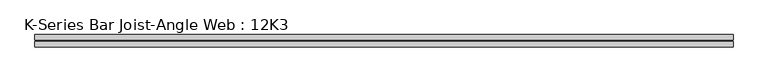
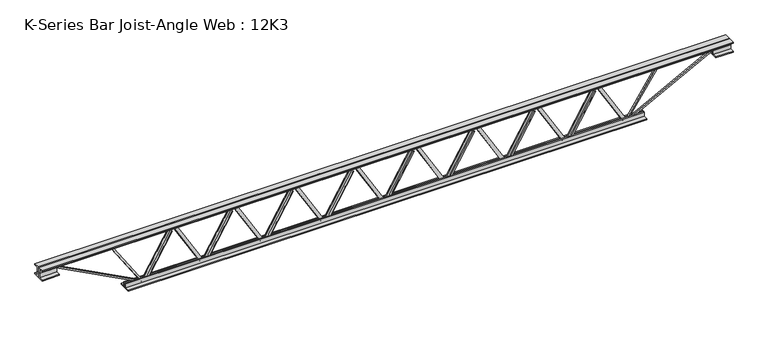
"""IFC4 building model written with IfcOpenShell, lengths in millimetres: beam geometry, K-Series Bar Joist-Angle Web : 12K3."""

from ifc_helpers import new_model, si_unit, frame, origin, place, context, project, spatial, polyline, outline, extrude, faceted_brep, source, transform, mapped, element, save


def k_series_bar_joist_angle_web_12k3_1ccca6b7(model_context):
    return source(origin(), model_context, "Body", "SolidModel", [
        extrude(outline(polyline([(-4.7625, 4.7625), (-4.7625, 0.0), (-17.4625, 0.0), (-17.4625, 4.7625), (-4.7625, 4.7625)])), frame((1034.3772472, 0.0, -114.3), z_axis=(-0.5087293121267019, 0.0, 0.8609265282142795), x_axis=(0.0, -1.0, 0.0)), (0.0, 0.0, 1.0), 265.5278848),
        extrude(outline(polyline([(-149.225, 1066.8), (-130.175, 1066.8), (-130.175, 1065.8852528), (149.225, 900.7852528), (149.225, 882.65), (130.175, 882.65), (130.175, 889.9147472), (-149.225, 1055.0147472), (-149.225, 1066.8)])), frame((0.0, 0.0, 0.0), z_axis=(0.0, 1.0, 0.0), x_axis=(0.0, 0.0, 1.0)), (0.0, 0.0, 1.0), 4.7625),
        faceted_brep([(711.2, 0.0, -130.175), (711.2, 0.0, -149.225), (711.2, -4.7625, -149.225), (711.2, -4.7625, -130.175), (712.1147472, 0.0, -130.175), (877.2147472, 0.0, 149.225), (895.35, 0.0, 149.225), (895.35, 0.0, 130.175), (888.0852528, 0.0, 130.175), (722.9852528, 0.0, -149.225), (722.9852528, -4.7625, -149.225), (743.6227528, -4.7625, -114.3), (739.5225902, -4.7625, -111.8771767), (874.6044084, -4.7625, 116.7228233), (878.704571, -4.7625, 114.3), (888.0852528, -4.7625, 130.175), (895.35, -4.7625, 130.175), (895.35, -4.7625, 149.225), (877.2147472, -4.7625, 149.225), (712.1147472, -4.7625, -130.175), (878.704571, -17.4625, 114.3), (743.6227528, -17.4625, -114.3), (739.5225902, -17.4625, -111.8771767), (874.6044084, -17.4625, 116.7228233)], [[[0, 1, 2, 3]], [[1, 0, 4, 5, 6, 7, 8, 9]], [[2, 1, 9, 10]], [[3, 2, 10, 11, 12, 13, 14, 15, 16, 17, 18, 19]], [[0, 3, 19, 4]], [[9, 8, 15, 14, 20, 21, 11, 10]], [[5, 4, 19, 18]], [[7, 6, 17, 16]], [[8, 7, 16, 15]], [[6, 5, 18, 17]], [[21, 22, 12, 11]], [[20, 14, 13, 23]], [[22, 21, 20, 23]], [[12, 22, 23, 13]]]),
        extrude(outline(polyline([(-4.7625, 4.7625), (-4.7625, 0.0), (-17.4625, 0.0), (-17.4625, 4.7625), (-4.7625, 4.7625)])), frame((678.7772472, 0.0, -114.3), z_axis=(-0.5087293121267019, 0.0, 0.8609265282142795), x_axis=(0.0, -1.0, 0.0)), (0.0, 0.0, 1.0), 265.5278848),
        extrude(outline(polyline([(-149.225, 711.2), (-130.175, 711.2), (-130.175, 710.2852528), (149.225, 545.1852528), (149.225, 527.05), (130.175, 527.05), (130.175, 534.3147472), (-149.225, 699.4147472), (-149.225, 711.2)])), frame((0.0, 0.0, 0.0), z_axis=(0.0, 1.0, 0.0), x_axis=(0.0, 0.0, 1.0)), (0.0, 0.0, 1.0), 4.7625),
        faceted_brep([(355.6, 0.0, -130.175), (355.6, 0.0, -149.225), (355.6, -4.7625, -149.225), (355.6, -4.7625, -130.175), (356.5147472, 0.0, -130.175), (521.6147472, 0.0, 149.225), (539.75, 0.0, 149.225), (539.75, 0.0, 130.175), (532.4852528, 0.0, 130.175), (367.3852528, 0.0, -149.225), (367.3852528, -4.7625, -149.225), (388.0227528, -4.7625, -114.3), (383.9225902, -4.7625, -111.8771767), (519.0044084, -4.7625, 116.7228233), (523.104571, -4.7625, 114.3), (532.4852528, -4.7625, 130.175), (539.75, -4.7625, 130.175), (539.75, -4.7625, 149.225), (521.6147472, -4.7625, 149.225), (356.5147472, -4.7625, -130.175), (523.104571, -17.4625, 114.3), (388.0227528, -17.4625, -114.3), (383.9225902, -17.4625, -111.8771767), (519.0044084, -17.4625, 116.7228233)], [[[0, 1, 2, 3]], [[1, 0, 4, 5, 6, 7, 8, 9]], [[2, 1, 9, 10]], [[3, 2, 10, 11, 12, 13, 14, 15, 16, 17, 18, 19]], [[0, 3, 19, 4]], [[9, 8, 15, 14, 20, 21, 11, 10]], [[5, 4, 19, 18]], [[7, 6, 17, 16]], [[8, 7, 16, 15]], [[6, 5, 18, 17]], [[21, 22, 12, 11]], [[20, 14, 13, 23]], [[22, 21, 20, 23]], [[12, 22, 23, 13]]]),
        extrude(outline(polyline([(-4.7625, 4.7625), (-4.7625, 0.0), (-17.4625, 0.0), (-17.4625, 4.7625), (-4.7625, 4.7625)])), frame((323.1772472, 0.0, -114.3), z_axis=(-0.5087293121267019, 0.0, 0.8609265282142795), x_axis=(0.0, -1.0, 0.0)), (0.0, 0.0, 1.0), 265.5278848),
        extrude(outline(polyline([(-149.225, 355.6), (-130.175, 355.6), (-130.175, 354.6852528), (149.225, 189.5852528), (149.225, 171.45), (130.175, 171.45), (130.175, 178.7147472), (-149.225, 343.8147472), (-149.225, 355.6)])), frame((0.0, 0.0, 0.0), z_axis=(0.0, 1.0, 0.0), x_axis=(0.0, 0.0, 1.0)), (0.0, 0.0, 1.0), 4.7625),
        faceted_brep([(0.0, 0.0, -130.175), (0.0, 0.0, -149.225), (0.0, -4.7625, -149.225), (0.0, -4.7625, -130.175), (0.9147472, 0.0, -130.175), (166.0147472, 0.0, 149.225), (184.15, 0.0, 149.225), (184.15, 0.0, 130.175), (176.8852528, 0.0, 130.175), (11.7852528, 0.0, -149.225), (11.7852528, -4.7625, -149.225), (32.4227528, -4.7625, -114.3), (28.3225902, -4.7625, -111.8771767), (163.4044084, -4.7625, 116.7228233), (167.504571, -4.7625, 114.3), (176.8852528, -4.7625, 130.175), (184.15, -4.7625, 130.175), (184.15, -4.7625, 149.225), (166.0147472, -4.7625, 149.225), (0.9147472, -4.7625, -130.175), (167.504571, -17.4625, 114.3), (32.4227528, -17.4625, -114.3), (28.3225902, -17.4625, -111.8771767), (163.4044084, -17.4625, 116.7228233)], [[[0, 1, 2, 3]], [[1, 0, 4, 5, 6, 7, 8, 9]], [[2, 1, 9, 10]], [[3, 2, 10, 11, 12, 13, 14, 15, 16, 17, 18, 19]], [[0, 3, 19, 4]], [[9, 8, 15, 14, 20, 21, 11, 10]], [[5, 4, 19, 18]], [[7, 6, 17, 16]], [[8, 7, 16, 15]], [[6, 5, 18, 17]], [[21, 22, 12, 11]], [[20, 14, 13, 23]], [[22, 21, 20, 23]], [[12, 22, 23, 13]]]),
        extrude(outline(polyline([(-4.7625, 4.7625), (-4.7625, 0.0), (-17.4625, 0.0), (-17.4625, 4.7625), (-4.7625, 4.7625)])), frame((-32.4227528, 0.0, -114.3), z_axis=(-0.5087293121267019, 0.0, 0.8609265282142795), x_axis=(0.0, -1.0, 0.0)), (0.0, 0.0, 1.0), 265.5278848),
        extrude(outline(polyline([(-149.225, 0.0), (-130.175, 0.0), (-130.175, -0.9147472), (149.225, -166.0147472), (149.225, -184.15), (130.175, -184.15), (130.175, -176.8852528), (-149.225, -11.7852528), (-149.225, 0.0)])), frame((0.0, 0.0, 0.0), z_axis=(0.0, 1.0, 0.0), x_axis=(0.0, 0.0, 1.0)), (0.0, 0.0, 1.0), 4.7625),
        faceted_brep([(-355.6, 0.0, -130.175), (-355.6, 0.0, -149.225), (-355.6, -4.7625, -149.225), (-355.6, -4.7625, -130.175), (-354.6852528, 0.0, -130.175), (-189.5852528, 0.0, 149.225), (-171.45, 0.0, 149.225), (-171.45, 0.0, 130.175), (-178.7147472, 0.0, 130.175), (-343.8147472, 0.0, -149.225), (-343.8147472, -4.7625, -149.225), (-323.1772472, -4.7625, -114.3), (-327.2774098, -4.7625, -111.8771767), (-192.1955916, -4.7625, 116.7228233), (-188.095429, -4.7625, 114.3), (-178.7147472, -4.7625, 130.175), (-171.45, -4.7625, 130.175), (-171.45, -4.7625, 149.225), (-189.5852528, -4.7625, 149.225), (-354.6852528, -4.7625, -130.175), (-188.095429, -17.4625, 114.3), (-323.1772472, -17.4625, -114.3), (-327.2774098, -17.4625, -111.8771767), (-192.1955916, -17.4625, 116.7228233)], [[[0, 1, 2, 3]], [[1, 0, 4, 5, 6, 7, 8, 9]], [[2, 1, 9, 10]], [[3, 2, 10, 11, 12, 13, 14, 15, 16, 17, 18, 19]], [[0, 3, 19, 4]], [[9, 8, 15, 14, 20, 21, 11, 10]], [[5, 4, 19, 18]], [[7, 6, 17, 16]], [[8, 7, 16, 15]], [[6, 5, 18, 17]], [[21, 22, 12, 11]], [[20, 14, 13, 23]], [[22, 21, 20, 23]], [[12, 22, 23, 13]]]),
        extrude(outline(polyline([(-4.7625, 4.7625), (-4.7625, 0.0), (-17.4625, 0.0), (-17.4625, 4.7625), (-4.7625, 4.7625)])), frame((-388.0227528, 0.0, -114.3), z_axis=(-0.5087293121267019, 0.0, 0.8609265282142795), x_axis=(0.0, -1.0, 0.0)), (0.0, 0.0, 1.0), 265.5278848),
        extrude(outline(polyline([(-149.225, -355.6), (-130.175, -355.6), (-130.175, -356.5147472), (149.225, -521.6147472), (149.225, -539.75), (130.175, -539.75), (130.175, -532.4852528), (-149.225, -367.3852528), (-149.225, -355.6)])), frame((0.0, 0.0, 0.0), z_axis=(0.0, 1.0, 0.0), x_axis=(0.0, 0.0, 1.0)), (0.0, 0.0, 1.0), 4.7625),
        faceted_brep([(-711.2, 0.0, -130.175), (-711.2, 0.0, -149.225), (-711.2, -4.7625, -149.225), (-711.2, -4.7625, -130.175), (-710.2852528, 0.0, -130.175), (-545.1852528, 0.0, 149.225), (-527.05, 0.0, 149.225), (-527.05, 0.0, 130.175), (-534.3147472, 0.0, 130.175), (-699.4147472, 0.0, -149.225), (-699.4147472, -4.7625, -149.225), (-678.7772472, -4.7625, -114.3), (-682.8774098, -4.7625, -111.8771767), (-547.7955916, -4.7625, 116.7228233), (-543.695429, -4.7625, 114.3), (-534.3147472, -4.7625, 130.175), (-527.05, -4.7625, 130.175), (-527.05, -4.7625, 149.225), (-545.1852528, -4.7625, 149.225), (-710.2852528, -4.7625, -130.175), (-543.695429, -17.4625, 114.3), (-678.7772472, -17.4625, -114.3), (-682.8774098, -17.4625, -111.8771767), (-547.7955916, -17.4625, 116.7228233)], [[[0, 1, 2, 3]], [[1, 0, 4, 5, 6, 7, 8, 9]], [[2, 1, 9, 10]], [[3, 2, 10, 11, 12, 13, 14, 15, 16, 17, 18, 19]], [[0, 3, 19, 4]], [[9, 8, 15, 14, 20, 21, 11, 10]], [[5, 4, 19, 18]], [[7, 6, 17, 16]], [[8, 7, 16, 15]], [[6, 5, 18, 17]], [[21, 22, 12, 11]], [[20, 14, 13, 23]], [[22, 21, 20, 23]], [[12, 22, 23, 13]]]),
        extrude(outline(polyline([(-4.7625, 4.7625), (-4.7625, 0.0), (-17.4625, 0.0), (-17.4625, 4.7625), (-4.7625, 4.7625)])), frame((-743.6227528, 0.0, -114.3), z_axis=(-0.5087293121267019, 0.0, 0.8609265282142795), x_axis=(0.0, -1.0, 0.0)), (0.0, 0.0, 1.0), 265.5278848),
        extrude(outline(polyline([(-149.225, -711.2), (-130.175, -711.2), (-130.175, -712.1147472), (149.225, -877.2147472), (149.225, -895.35), (130.175, -895.35), (130.175, -888.0852528), (-149.225, -722.9852528), (-149.225, -711.2)])), frame((0.0, 0.0, 0.0), z_axis=(0.0, 1.0, 0.0), x_axis=(0.0, 0.0, 1.0)), (0.0, 0.0, 1.0), 4.7625),
        faceted_brep([(-1066.8, 0.0, -130.175), (-1066.8, 0.0, -149.225), (-1066.8, -4.7625, -149.225), (-1066.8, -4.7625, -130.175), (-1065.8852528, 0.0, -130.175), (-900.7852528, 0.0, 149.225), (-882.65, 0.0, 149.225), (-882.65, 0.0, 130.175), (-889.9147472, 0.0, 130.175), (-1055.0147472, 0.0, -149.225), (-1055.0147472, -4.7625, -149.225), (-1034.3772472, -4.7625, -114.3), (-1038.4774098, -4.7625, -111.8771767), (-903.3955916, -4.7625, 116.7228233), (-899.295429, -4.7625, 114.3), (-889.9147472, -4.7625, 130.175), (-882.65, -4.7625, 130.175), (-882.65, -4.7625, 149.225), (-900.7852528, -4.7625, 149.225), (-1065.8852528, -4.7625, -130.175), (-899.295429, -17.4625, 114.3), (-1034.3772472, -17.4625, -114.3), (-1038.4774098, -17.4625, -111.8771767), (-903.3955916, -17.4625, 116.7228233)], [[[0, 1, 2, 3]], [[1, 0, 4, 5, 6, 7, 8, 9]], [[2, 1, 9, 10]], [[3, 2, 10, 11, 12, 13, 14, 15, 16, 17, 18, 19]], [[0, 3, 19, 4]], [[9, 8, 15, 14, 20, 21, 11, 10]], [[5, 4, 19, 18]], [[7, 6, 17, 16]], [[8, 7, 16, 15]], [[6, 5, 18, 17]], [[21, 22, 12, 11]], [[20, 14, 13, 23]], [[22, 21, 20, 23]], [[12, 22, 23, 13]]]),
        extrude(outline(polyline([(-4.7625, 4.7625), (-4.7625, 0.0), (-17.4625, 0.0), (-17.4625, 4.7625), (-4.7625, 4.7625)])), frame((1389.9772472, 0.0, -114.3), z_axis=(-0.5087293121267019, 0.0, 0.8609265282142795), x_axis=(0.0, -1.0, 0.0)), (0.0, 0.0, 1.0), 265.5278848),
        extrude(outline(polyline([(-149.225, 1422.4), (-130.175, 1422.4), (-130.175, 1421.4852528), (149.225, 1256.3852528), (149.225, 1238.25), (130.175, 1238.25), (130.175, 1245.5147472), (-149.225, 1410.6147472), (-149.225, 1422.4)])), frame((0.0, 0.0, 0.0), z_axis=(0.0, 1.0, 0.0), x_axis=(0.0, 0.0, 1.0)), (0.0, 0.0, 1.0), 4.7625),
        faceted_brep([(1066.8, 0.0, -130.175), (1066.8, 0.0, -149.225), (1066.8, -4.7625, -149.225), (1066.8, -4.7625, -130.175), (1067.7147472, 0.0, -130.175), (1232.8147472, 0.0, 149.225), (1250.95, 0.0, 149.225), (1250.95, 0.0, 130.175), (1243.6852528, 0.0, 130.175), (1078.5852528, 0.0, -149.225), (1078.5852528, -4.7625, -149.225), (1099.2227528, -4.7625, -114.3), (1095.1225902, -4.7625, -111.8771767), (1230.2044084, -4.7625, 116.7228233), (1234.304571, -4.7625, 114.3), (1243.6852528, -4.7625, 130.175), (1250.95, -4.7625, 130.175), (1250.95, -4.7625, 149.225), (1232.8147472, -4.7625, 149.225), (1067.7147472, -4.7625, -130.175), (1234.304571, -17.4625, 114.3), (1099.2227528, -17.4625, -114.3), (1095.1225902, -17.4625, -111.8771767), (1230.2044084, -17.4625, 116.7228233)], [[[0, 1, 2, 3]], [[1, 0, 4, 5, 6, 7, 8, 9]], [[2, 1, 9, 10]], [[3, 2, 10, 11, 12, 13, 14, 15, 16, 17, 18, 19]], [[0, 3, 19, 4]], [[9, 8, 15, 14, 20, 21, 11, 10]], [[5, 4, 19, 18]], [[7, 6, 17, 16]], [[8, 7, 16, 15]], [[6, 5, 18, 17]], [[21, 22, 12, 11]], [[20, 14, 13, 23]], [[22, 21, 20, 23]], [[12, 22, 23, 13]]]),
        extrude(outline(polyline([(-4.7625, 4.7625), (-4.7625, 0.0), (-17.4625, 0.0), (-17.4625, 4.7625), (-4.7625, 4.7625)])), frame((-1099.2227528, 0.0, -114.3), z_axis=(-0.5087293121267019, 0.0, 0.8609265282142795), x_axis=(0.0, -1.0, 0.0)), (0.0, 0.0, 1.0), 265.5278848),
        extrude(outline(polyline([(-149.225, -1066.8), (-130.175, -1066.8), (-130.175, -1067.7147472), (149.225, -1232.8147472), (149.225, -1250.95), (130.175, -1250.95), (130.175, -1243.6852528), (-149.225, -1078.5852528), (-149.225, -1066.8)])), frame((0.0, 0.0, 0.0), z_axis=(0.0, 1.0, 0.0), x_axis=(0.0, 0.0, 1.0)), (0.0, 0.0, 1.0), 4.7625),
        faceted_brep([(-1422.4, 0.0, -130.175), (-1422.4, 0.0, -149.225), (-1422.4, -4.7625, -149.225), (-1422.4, -4.7625, -130.175), (-1421.4852528, 0.0, -130.175), (-1256.3852528, 0.0, 149.225), (-1238.25, 0.0, 149.225), (-1238.25, 0.0, 130.175), (-1245.5147472, 0.0, 130.175), (-1410.6147472, 0.0, -149.225), (-1410.6147472, -4.7625, -149.225), (-1389.9772472, -4.7625, -114.3), (-1394.0774098, -4.7625, -111.8771767), (-1258.9955916, -4.7625, 116.7228233), (-1254.895429, -4.7625, 114.3), (-1245.5147472, -4.7625, 130.175), (-1238.25, -4.7625, 130.175), (-1238.25, -4.7625, 149.225), (-1256.3852528, -4.7625, 149.225), (-1421.4852528, -4.7625, -130.175), (-1254.895429, -17.4625, 114.3), (-1389.9772472, -17.4625, -114.3), (-1394.0774098, -17.4625, -111.8771767), (-1258.9955916, -17.4625, 116.7228233)], [[[0, 1, 2, 3]], [[1, 0, 4, 5, 6, 7, 8, 9]], [[2, 1, 9, 10]], [[3, 2, 10, 11, 12, 13, 14, 15, 16, 17, 18, 19]], [[0, 3, 19, 4]], [[9, 8, 15, 14, 20, 21, 11, 10]], [[5, 4, 19, 18]], [[7, 6, 17, 16]], [[8, 7, 16, 15]], [[6, 5, 18, 17]], [[21, 22, 12, 11]], [[20, 14, 13, 23]], [[22, 21, 20, 23]], [[12, 22, 23, 13]]]),
        extrude(outline(polyline([(4.7625, 152.4), (36.5125, 152.4), (36.5125, 146.05), (11.1125, 146.05), (11.1125, 120.65), (4.7625, 120.65), (4.7625, 152.4)])), frame((-2032.0, 0.0, 0.0), z_axis=(1.0, 0.0, 0.0), x_axis=(0.0, 1.0, 0.0)), (0.0, 0.0, 1.0), 4064.0),
        extrude(outline(polyline([(-4.7625, 152.4), (-4.7625, 120.65), (-11.1125, 120.65), (-11.1125, 146.05), (-36.5125, 146.05), (-36.5125, 152.4), (-4.7625, 152.4)])), frame((-2032.0, 0.0, 0.0), z_axis=(1.0, 0.0, 0.0), x_axis=(0.0, 1.0, 0.0)), (0.0, 0.0, 1.0), 4064.0),
        extrude(outline(polyline([(-4.7625, 88.9), (-36.5125, 88.9), (-36.5125, 95.25), (-11.1125, 95.25), (-11.1125, 120.65), (-4.7625, 120.65), (-4.7625, 88.9)])), frame((-2032.0, 0.0, 0.0), z_axis=(1.0, 0.0, 0.0), x_axis=(0.0, 1.0, 0.0)), (0.0, 0.0, 1.0), 101.6),
        extrude(outline(polyline([(36.5125, 88.9), (4.7625, 88.9), (4.7625, 120.65), (11.1125, 120.65), (11.1125, 95.25), (36.5125, 95.25), (36.5125, 88.9)])), frame((-2032.0, 0.0, 0.0), z_axis=(1.0, 0.0, 0.0), x_axis=(0.0, 1.0, 0.0)), (0.0, 0.0, 1.0), 101.6),
        extrude(outline(polyline([(4.7625, 88.9), (4.7625, 120.65), (11.1125, 120.65), (11.1125, 95.25), (36.5125, 95.25), (36.5125, 88.9), (4.7625, 88.9)])), frame((1930.4, 0.0, 0.0), z_axis=(1.0, 0.0, 0.0), x_axis=(0.0, 1.0, 0.0)), (0.0, 0.0, 1.0), 101.6),
        extrude(outline(polyline([(-4.7625, 88.9), (-36.5125, 88.9), (-36.5125, 95.25), (-11.1125, 95.25), (-11.1125, 120.65), (-4.7625, 120.65), (-4.7625, 88.9)])), frame((1930.4, 0.0, 0.0), z_axis=(1.0, 0.0, 0.0), x_axis=(0.0, 1.0, 0.0)), (0.0, 0.0, 1.0), 101.6),
        extrude(outline(polyline([(4.7625, -152.4), (4.7625, -120.65), (11.1125, -120.65), (11.1125, -146.05), (36.5125, -146.05), (36.5125, -152.4), (4.7625, -152.4)])), frame((-1524.0, 0.0, 0.0), z_axis=(1.0, 0.0, 0.0), x_axis=(0.0, 1.0, 0.0)), (0.0, 0.0, 1.0), 3048.0),
        extrude(outline(polyline([(-4.7625, -152.4), (-36.5125, -152.4), (-36.5125, -146.05), (-11.1125, -146.05), (-11.1125, -120.65), (-4.7625, -120.65), (-4.7625, -152.4)])), frame((-1524.0, 0.0, 0.0), z_axis=(1.0, 0.0, 0.0), x_axis=(0.0, 1.0, 0.0)), (0.0, 0.0, 1.0), 3048.0),
        extrude(outline(polyline([(4.7625, 4.7625), (4.7625, -4.7625), (-4.7625, -4.7625), (-4.7625, 4.7625), (4.7625, 4.7625)])), frame((1422.4, 0.0, -146.05), z_axis=(0.5547001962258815, 0.0, 0.8320502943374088), x_axis=(0.0, -1.0, 0.0)), (0.0, 0.0, 1.0), 320.5335084),
        extrude(outline(polyline([(4.7625, 4.7625), (4.7625, -4.7625), (-4.7625, -4.7625), (-4.7625, 4.7625), (4.7625, 4.7625)])), frame((-1422.4, 0.0, -146.05), z_axis=(-0.5547001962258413, 0.0, 0.8320502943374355), x_axis=(0.0, -1.0, 0.0)), (0.0, 0.0, 1.0), 320.5335084),
        extrude(outline(polyline([(0.0, -9.525), (0.0, 0.0), (573.7533355, 0.0), (573.7533355, -9.525), (0.0, -9.525)])), frame((1932.6137714, -4.7625, 116.4332925), z_axis=(-0.4648338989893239, 0.0, 0.8853979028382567), x_axis=(-0.8853979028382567, 0.0, -0.4648338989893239)), (0.0, 0.0, 1.0), 9.525),
        extrude(outline(polyline([(0.0, -9.525), (0.0, 0.0), (573.7533355, 0.0), (573.7533355, -9.525), (0.0, -9.525)])), frame((-1932.6137714, 4.7625, 116.4332925), z_axis=(0.4648338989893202, 0.0, 0.8853979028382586), x_axis=(0.8853979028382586, 0.0, -0.4648338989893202)), (0.0, 0.0, 1.0), 9.525),
    ])


if __name__ == "__main__":
    model = new_model("IFC4")
    model_context = context("Model", 3, world=origin())
    ifc_project = project(units=[si_unit("LENGTHUNIT", "METRE", prefix="MILLI")], contexts=[model_context])
    site = spatial("IfcSite", under=ifc_project)
    building = spatial("IfcBuilding", under=site)
    placement = place(None, origin())
    k_series_bar_joist_angle_web_12k3_shape = k_series_bar_joist_angle_web_12k3_1ccca6b7(model_context)
    element("IfcBeam", 1, ObjectType="K-Series Bar Joist-Angle Web : 12K3", at=placement, inside=building, context=model_context, shape_type="MappedRepresentation", body=[
        mapped(k_series_bar_joist_angle_web_12k3_shape, transform((0.0, 0.0, 0.0), x_axis=(1.0, 0.0, 0.0), y_axis=(0.0, 1.0, 0.0), z_axis=(0.0, 0.0, 1.0))),
    ])
    save(model, "model.ifc")
